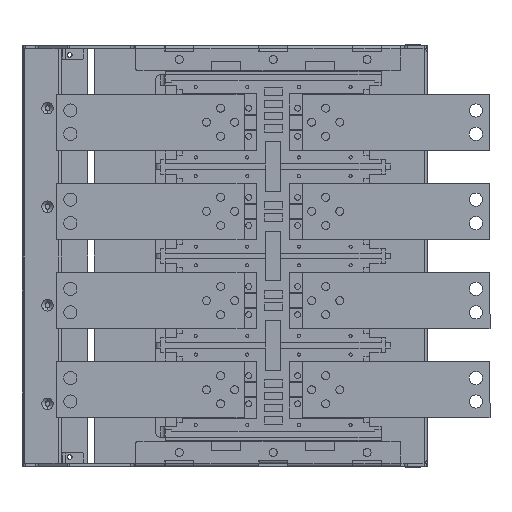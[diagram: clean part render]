
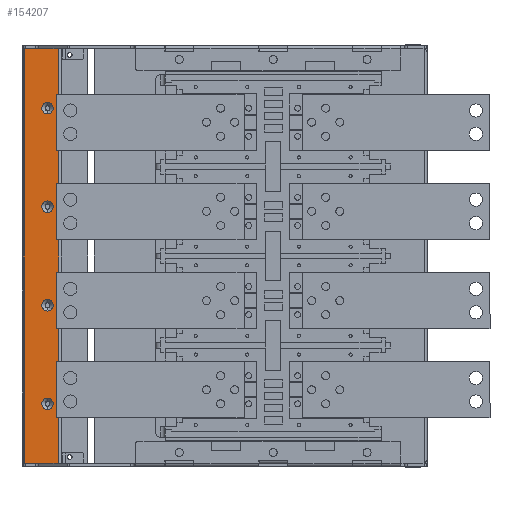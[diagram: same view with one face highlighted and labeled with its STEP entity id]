
A CAD part, left-side view. The second image highlights one B-rep face of the part: STEP entity #154207.
In plain terms, the highlighted planar face has unit normal (-1, 0, 0).
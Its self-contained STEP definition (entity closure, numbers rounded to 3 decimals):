
#2506 = DIRECTION ( 'NONE',  ( 0., 0., -1. ) ) ;
#6993 = CIRCLE ( 'NONE', #116953, 6.1 ) ;
#8026 = CARTESIAN_POINT ( 'NONE',  ( 294.756, 591.613, 106.988 ) ) ;
#10001 = VERTEX_POINT ( 'NONE', #8026 ) ;
#10140 = EDGE_CURVE ( 'NONE', #78184, #93357, #101221, .T. ) ;
#11834 = DIRECTION ( 'NONE',  ( 0., 0., -1. ) ) ;
#15319 = EDGE_CURVE ( 'NONE', #114017, #145411, #125515, .T. ) ;
#18006 = ORIENTED_EDGE ( 'NONE', *, *, #15319, .T. ) ;
#18168 = DIRECTION ( 'NONE',  ( 1., 0., 0. ) ) ;
#18790 = CARTESIAN_POINT ( 'NONE',  ( 294.756, 591.613, -109.112 ) ) ;
#19751 = CIRCLE ( 'NONE', #23472, 6.1 ) ;
#21486 = ORIENTED_EDGE ( 'NONE', *, *, #72528, .F. ) ;
#23472 = AXIS2_PLACEMENT_3D ( 'NONE', #196566, #29376, #183708 ) ;
#25989 = ORIENTED_EDGE ( 'NONE', *, *, #30629, .T. ) ;
#26102 = AXIS2_PLACEMENT_3D ( 'NONE', #18790, #18168, #2506 ) ;
#28574 = CARTESIAN_POINT ( 'NONE',  ( 294.756, 617.613, -172.412 ) ) ;
#29144 = CIRCLE ( 'NONE', #84000, 6.1 ) ;
#29376 = DIRECTION ( 'NONE',  ( 1., 0., 0. ) ) ;
#30320 = DIRECTION ( 'NONE',  ( 1., 0., 0. ) ) ;
#30326 = EDGE_LOOP ( 'NONE', ( #118836, #91813 ) ) ;
#30629 = EDGE_CURVE ( 'NONE', #82336, #55916, #59038, .T. ) ;
#31233 = DIRECTION ( 'NONE',  ( 0., -1., 0. ) ) ;
#34737 = CARTESIAN_POINT ( 'NONE',  ( 294.756, 617.613, 269.188 ) ) ;
#35662 = EDGE_CURVE ( 'NONE', #55916, #82336, #6993, .T. ) ;
#44224 = DIRECTION ( 'NONE',  ( 1., 0., 0. ) ) ;
#46472 = FACE_BOUND ( 'NONE', #30326, .T. ) ;
#47284 = CARTESIAN_POINT ( 'NONE',  ( 294.756, 591.613, -109.112 ) ) ;
#47547 = DIRECTION ( 'NONE',  ( 1., 0., 0. ) ) ;
#47639 = DIRECTION ( 'NONE',  ( 0., -1., 0. ) ) ;
#49056 = AXIS2_PLACEMENT_3D ( 'NONE', #59979, #168186, #167513 ) ;
#49865 = CARTESIAN_POINT ( 'NONE',  ( 294.756, 591.613, 211.988 ) ) ;
#55329 = CIRCLE ( 'NONE', #121138, 6.1 ) ;
#55916 = VERTEX_POINT ( 'NONE', #102595 ) ;
#59038 = CIRCLE ( 'NONE', #26102, 6.1 ) ;
#59979 = CARTESIAN_POINT ( 'NONE',  ( 294.756, 591.613, 100.888 ) ) ;
#59985 = ORIENTED_EDGE ( 'NONE', *, *, #35662, .T. ) ;
#61425 = ORIENTED_EDGE ( 'NONE', *, *, #200125, .T. ) ;
#63141 = DIRECTION ( 'NONE',  ( 0., 1., 0. ) ) ;
#63201 = FACE_BOUND ( 'NONE', #138180, .T. ) ;
#63482 = VERTEX_POINT ( 'NONE', #162895 ) ;
#63552 = DIRECTION ( 'NONE',  ( 0., 0., -1. ) ) ;
#65455 = LINE ( 'NONE', #176124, #133169 ) ;
#71905 = CARTESIAN_POINT ( 'NONE',  ( 294.756, 591.613, 199.788 ) ) ;
#72528 = EDGE_CURVE ( 'NONE', #78184, #63482, #106834, .T. ) ;
#72614 = EDGE_CURVE ( 'NONE', #192649, #63482, #65455, .T. ) ;
#75227 = ORIENTED_EDGE ( 'NONE', *, *, #197962, .T. ) ;
#76121 = CARTESIAN_POINT ( 'NONE',  ( 294.756, 616.613, -172.412 ) ) ;
#78184 = VERTEX_POINT ( 'NONE', #80747 ) ;
#80403 = CIRCLE ( 'NONE', #49056, 6.1 ) ;
#80747 = CARTESIAN_POINT ( 'NONE',  ( 294.756, 616.613, 269.188 ) ) ;
#80826 = ORIENTED_EDGE ( 'NONE', *, *, #72614, .T. ) ;
#82336 = VERTEX_POINT ( 'NONE', #137294 ) ;
#84000 = AXIS2_PLACEMENT_3D ( 'NONE', #108554, #137574, #169999 ) ;
#84941 = DIRECTION ( 'NONE',  ( 0., 0., 1. ) ) ;
#86668 = CARTESIAN_POINT ( 'NONE',  ( 294.756, 591.613, -4.112 ) ) ;
#90118 = FACE_OUTER_BOUND ( 'NONE', #179849, .T. ) ;
#91507 = LINE ( 'NONE', #28574, #195400 ) ;
#91813 = ORIENTED_EDGE ( 'NONE', *, *, #165204, .T. ) ;
#92565 = CARTESIAN_POINT ( 'NONE',  ( 294.756, 579.413, -172.412 ) ) ;
#93357 = VERTEX_POINT ( 'NONE', #76121 ) ;
#93693 = CARTESIAN_POINT ( 'NONE',  ( 294.756, 617.613, 269.188 ) ) ;
#101221 = LINE ( 'NONE', #182484, #161580 ) ;
#102595 = CARTESIAN_POINT ( 'NONE',  ( 294.756, 591.613, -115.212 ) ) ;
#104572 = CARTESIAN_POINT ( 'NONE',  ( 294.756, 591.613, 100.888 ) ) ;
#106133 = CARTESIAN_POINT ( 'NONE',  ( 294.756, 591.613, 1.988 ) ) ;
#106834 = LINE ( 'NONE', #34737, #159872 ) ;
#108554 = CARTESIAN_POINT ( 'NONE',  ( 294.756, 591.613, -4.112 ) ) ;
#111575 = CIRCLE ( 'NONE', #186210, 6.1 ) ;
#114017 = VERTEX_POINT ( 'NONE', #49865 ) ;
#115543 = DIRECTION ( 'NONE',  ( 0., 0., -1. ) ) ;
#116160 = EDGE_CURVE ( 'NONE', #152722, #137370, #29144, .T. ) ;
#116953 = AXIS2_PLACEMENT_3D ( 'NONE', #47284, #30320, #63552 ) ;
#117697 = DIRECTION ( 'NONE',  ( 1., 0., 0. ) ) ;
#118836 = ORIENTED_EDGE ( 'NONE', *, *, #191542, .T. ) ;
#118977 = DIRECTION ( 'NONE',  ( 0., 0., -1. ) ) ;
#121138 = AXIS2_PLACEMENT_3D ( 'NONE', #104572, #44224, #11834 ) ;
#124405 = CARTESIAN_POINT ( 'NONE',  ( 294.756, 591.613, 94.788 ) ) ;
#125515 = CIRCLE ( 'NONE', #175556, 6.1 ) ;
#130010 = EDGE_CURVE ( 'NONE', #93357, #192649, #91507, .T. ) ;
#130338 = DIRECTION ( 'NONE',  ( 1., 0., 0. ) ) ;
#132039 = ORIENTED_EDGE ( 'NONE', *, *, #10140, .T. ) ;
#133169 = VECTOR ( 'NONE', #84941, 1000. ) ;
#137294 = CARTESIAN_POINT ( 'NONE',  ( 294.756, 591.613, -103.012 ) ) ;
#137370 = VERTEX_POINT ( 'NONE', #157362 ) ;
#137574 = DIRECTION ( 'NONE',  ( 1., 0., 0. ) ) ;
#138180 = EDGE_LOOP ( 'NONE', ( #18006, #75227 ) ) ;
#138455 = FACE_BOUND ( 'NONE', #180616, .T. ) ;
#145411 = VERTEX_POINT ( 'NONE', #71905 ) ;
#147990 = ORIENTED_EDGE ( 'NONE', *, *, #130010, .T. ) ;
#152722 = VERTEX_POINT ( 'NONE', #106133 ) ;
#153715 = ORIENTED_EDGE ( 'NONE', *, *, #116160, .T. ) ;
#154207 = ADVANCED_FACE ( 'NONE', ( #90118, #63201, #46472, #138455, #198825 ), #187599, .F. ) ;
#157362 = CARTESIAN_POINT ( 'NONE',  ( 294.756, 591.613, -10.212 ) ) ;
#159872 = VECTOR ( 'NONE', #47639, 1000. ) ;
#161580 = VECTOR ( 'NONE', #118977, 1000. ) ;
#162895 = CARTESIAN_POINT ( 'NONE',  ( 294.756, 579.413, 269.188 ) ) ;
#165204 = EDGE_CURVE ( 'NONE', #184987, #10001, #80403, .T. ) ;
#167513 = DIRECTION ( 'NONE',  ( 0., 0., -1. ) ) ;
#168186 = DIRECTION ( 'NONE',  ( 1., 0., 0. ) ) ;
#168351 = EDGE_LOOP ( 'NONE', ( #25989, #59985 ) ) ;
#169999 = DIRECTION ( 'NONE',  ( 0., 0., -1. ) ) ;
#173545 = AXIS2_PLACEMENT_3D ( 'NONE', #93693, #47547, #63141 ) ;
#175556 = AXIS2_PLACEMENT_3D ( 'NONE', #177003, #130338, #115543 ) ;
#176124 = CARTESIAN_POINT ( 'NONE',  ( 294.756, 579.413, 269.188 ) ) ;
#177003 = CARTESIAN_POINT ( 'NONE',  ( 294.756, 591.613, 205.888 ) ) ;
#179849 = EDGE_LOOP ( 'NONE', ( #21486, #132039, #147990, #80826 ) ) ;
#180616 = EDGE_LOOP ( 'NONE', ( #153715, #61425 ) ) ;
#182484 = CARTESIAN_POINT ( 'NONE',  ( 294.756, 616.613, 269.188 ) ) ;
#183708 = DIRECTION ( 'NONE',  ( 0., 0., -1. ) ) ;
#184987 = VERTEX_POINT ( 'NONE', #124405 ) ;
#186210 = AXIS2_PLACEMENT_3D ( 'NONE', #86668, #117697, #194763 ) ;
#187599 = PLANE ( 'NONE',  #173545 ) ;
#191542 = EDGE_CURVE ( 'NONE', #10001, #184987, #55329, .T. ) ;
#192649 = VERTEX_POINT ( 'NONE', #92565 ) ;
#194763 = DIRECTION ( 'NONE',  ( 0., 0., -1. ) ) ;
#195400 = VECTOR ( 'NONE', #31233, 1000. ) ;
#196566 = CARTESIAN_POINT ( 'NONE',  ( 294.756, 591.613, 205.888 ) ) ;
#197962 = EDGE_CURVE ( 'NONE', #145411, #114017, #19751, .T. ) ;
#198825 = FACE_BOUND ( 'NONE', #168351, .T. ) ;
#200125 = EDGE_CURVE ( 'NONE', #137370, #152722, #111575, .T. ) ;
